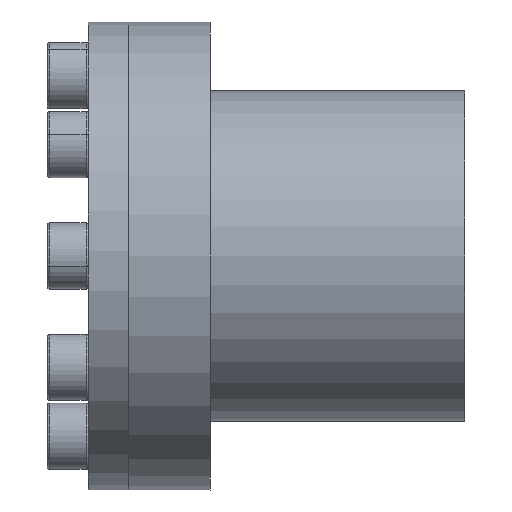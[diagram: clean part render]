
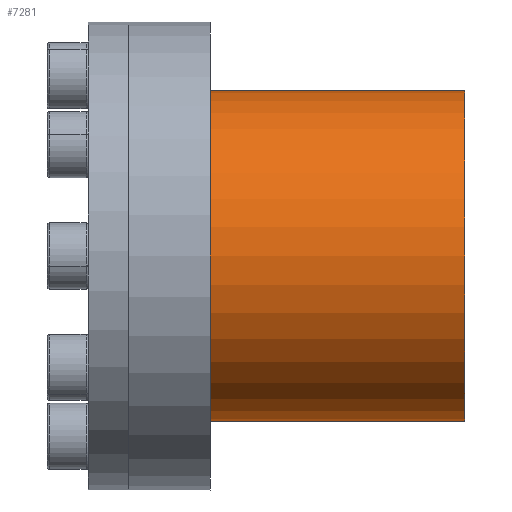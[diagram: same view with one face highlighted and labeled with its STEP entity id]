
A CAD part, front view. The second image highlights one B-rep face of the part: STEP entity #7281.
In plain terms, the highlighted cylindrical face has radius 32.5 mm (diameter 65 mm), a partial arc.
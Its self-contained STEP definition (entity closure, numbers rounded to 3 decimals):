
#332 = VERTEX_POINT ( 'NONE', #4986 ) ;
#435 = ORIENTED_EDGE ( 'NONE', *, *, #3650, .T. ) ;
#600 = AXIS2_PLACEMENT_3D ( 'NONE', #6013, #2071, #6685 ) ;
#735 = DIRECTION ( 'NONE',  ( -1., 0., 0. ) ) ;
#1123 = VERTEX_POINT ( 'NONE', #3336 ) ;
#1145 = CIRCLE ( 'NONE', #600, 32.5 ) ;
#1249 = CARTESIAN_POINT ( 'NONE',  ( 37.536, 0., 32.5 ) ) ;
#1837 = ORIENTED_EDGE ( 'NONE', *, *, #2513, .F. ) ;
#1905 = VERTEX_POINT ( 'NONE', #1249 ) ;
#2071 = DIRECTION ( 'NONE',  ( -1., 0., 0. ) ) ;
#2513 = EDGE_CURVE ( 'NONE', #332, #3071, #5656, .T. ) ;
#2856 = EDGE_CURVE ( 'NONE', #1905, #3071, #7612, .T. ) ;
#3071 = VERTEX_POINT ( 'NONE', #4302 ) ;
#3160 = CARTESIAN_POINT ( 'NONE',  ( -12.464, 0., 0. ) ) ;
#3191 = FACE_OUTER_BOUND ( 'NONE', #6854, .T. ) ;
#3336 = CARTESIAN_POINT ( 'NONE',  ( 37.536, 0., -32.5 ) ) ;
#3650 = EDGE_CURVE ( 'NONE', #1123, #1905, #1145, .T. ) ;
#3723 = VECTOR ( 'NONE', #6161, 1000. ) ;
#3823 = DIRECTION ( 'NONE',  ( 0., 0., 1. ) ) ;
#3913 = LINE ( 'NONE', #4211, #3723 ) ;
#4189 = ORIENTED_EDGE ( 'NONE', *, *, #5238, .F. ) ;
#4211 = CARTESIAN_POINT ( 'NONE',  ( -40.285, 0., -32.5 ) ) ;
#4302 = CARTESIAN_POINT ( 'NONE',  ( -12.464, 0., 32.5 ) ) ;
#4605 = DIRECTION ( 'NONE',  ( 0., 0., 1. ) ) ;
#4986 = CARTESIAN_POINT ( 'NONE',  ( -12.464, 0., -32.5 ) ) ;
#5238 = EDGE_CURVE ( 'NONE', #1123, #332, #3913, .T. ) ;
#5353 = CARTESIAN_POINT ( 'NONE',  ( -40.285, 0., 32.5 ) ) ;
#5656 = CIRCLE ( 'NONE', #7991, 32.5 ) ;
#5833 = VECTOR ( 'NONE', #735, 1000. ) ;
#5836 = ORIENTED_EDGE ( 'NONE', *, *, #2856, .T. ) ;
#6013 = CARTESIAN_POINT ( 'NONE',  ( 37.536, 0., 0. ) ) ;
#6161 = DIRECTION ( 'NONE',  ( -1., 0., 0. ) ) ;
#6288 = CYLINDRICAL_SURFACE ( 'NONE', #7545, 32.5 ) ;
#6685 = DIRECTION ( 'NONE',  ( 0., 0., 1. ) ) ;
#6854 = EDGE_LOOP ( 'NONE', ( #4189, #435, #5836, #1837 ) ) ;
#7262 = CARTESIAN_POINT ( 'NONE',  ( -40.285, 0., 0. ) ) ;
#7281 = ADVANCED_FACE ( 'NONE', ( #3191 ), #6288, .T. ) ;
#7545 = AXIS2_PLACEMENT_3D ( 'NONE', #7262, #7915, #4605 ) ;
#7612 = LINE ( 'NONE', #5353, #5833 ) ;
#7762 = DIRECTION ( 'NONE',  ( -1., 0., 0. ) ) ;
#7915 = DIRECTION ( 'NONE',  ( -1., 0., 0. ) ) ;
#7991 = AXIS2_PLACEMENT_3D ( 'NONE', #3160, #7762, #3823 ) ;
